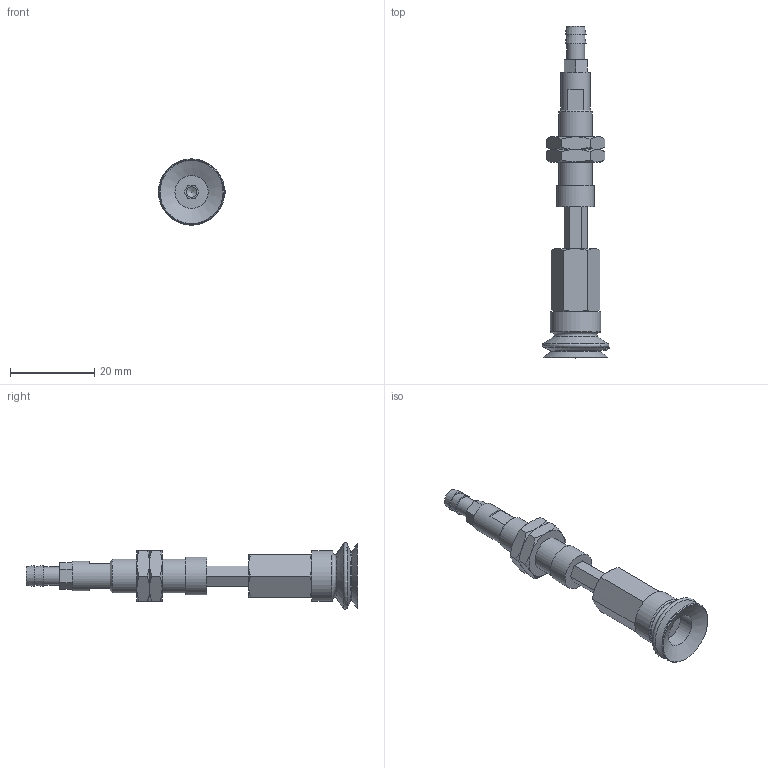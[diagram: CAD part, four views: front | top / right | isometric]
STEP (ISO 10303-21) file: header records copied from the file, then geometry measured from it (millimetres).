
FILE_DESCRIPTION(('STEP AP203'),'1');
FILE_NAME('-T.stp','2025-08-27T06:51:58',(' '),(' '),'Spatial InterOp 3D',' ',' ');
FILE_SCHEMA(('CONFIG_CONTROL_DESIGN'));
Length unit declared in the file: millimetre
Products named in the file (8): BNABPJTH-15-10-※-T; ADAPTER; NAPCTH-10-10-MBODY; Adapter-15-NAPJ; NAPJH-15-10-NUT; NAPJTH-15-10-FBODY; BPJG-15-※; T
Assembly tree (8 placements, depth 2):
  BNABPJTH-15-10-※-T
    ADAPTER
    NAPCTH-10-10-MBODY
    Adapter-15-NAPJ
    NAPJH-15-10-NUT  x2
    NAPJTH-15-10-FBODY
    BPJG-15-※
    T
Bounding box: 15.99 x 79 x 15.79 mm (x, y, z)
Volume: 4564.2 mm3; surface area: 5236.5 mm2
Topology: 8 solids, 8 shells, 165 faces, 355 edges, 214 vertices
Faces by surface type: plane 74, cone 56, cylinder 16, torus 9, bspline 6, sphere 4
Full cylindrical faces by diameter (mm): 2.5 x1, 3 x1, 4.134 x2, 4.3 x1, 4.6 x1, 5 x2, 7 x1, 7.188 x2, 7.9 x1, 8 x2, 9 x1, 12 x1
Entity records: 4424 total; most frequent: CARTESIAN_POINT 1193, DIRECTION 592, ORIENTED_EDGE 516, EDGE_CURVE 258, AXIS2_PLACEMENT_3D 245, EDGE_LOOP 199, VERTEX_POINT 178, FACE_OUTER_BOUND 164
